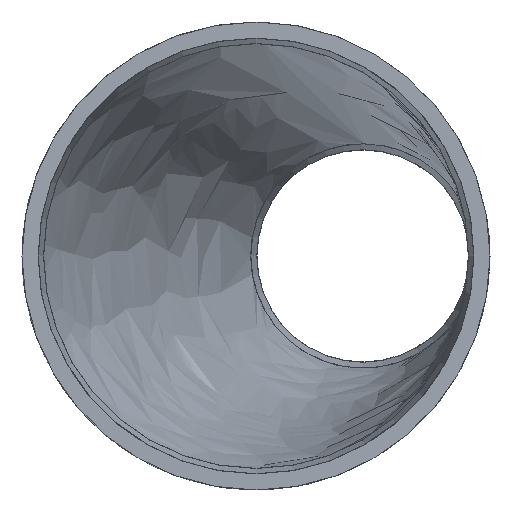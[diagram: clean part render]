
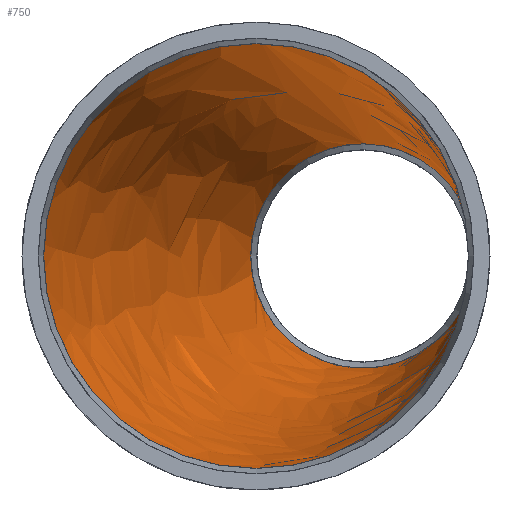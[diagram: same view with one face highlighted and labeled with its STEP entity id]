
A CAD part, left-side view. The second image highlights one B-rep face of the part: STEP entity #750.
In plain terms, the highlighted free-form (B-spline) face has degree [1, 2] with [2, 9] control points.
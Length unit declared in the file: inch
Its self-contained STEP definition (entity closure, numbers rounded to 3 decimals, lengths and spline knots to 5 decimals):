
#57=B_SPLINE_CURVE_WITH_KNOTS('',1,(#1385,#1386),.UNSPECIFIED.,.F.,.F.,
(2,2),(0.00143,4.3378),.UNSPECIFIED.);
#59=(
BOUNDED_SURFACE()
B_SPLINE_SURFACE(1,2,((#1367,#1368,#1369,#1370,#1371,#1372,#1373,#1374,
#1375),(#1376,#1377,#1378,#1379,#1380,#1381,#1382,#1383,#1384)),
 .UNSPECIFIED.,.F.,.T.,.F.)
B_SPLINE_SURFACE_WITH_KNOTS((2,2),(3,2,2,2,3),(-0.11774,4.39562),
(-3.14159,-1.5708,0.,1.5708,3.14159),
 .UNSPECIFIED.)
GEOMETRIC_REPRESENTATION_ITEM()
RATIONAL_B_SPLINE_SURFACE(((1.,0.707,1.,0.707,1.,
0.707,1.,0.707,1.),(1.,0.707,1.,0.707,
1.,0.707,1.,0.707,1.)))
REPRESENTATION_ITEM('')
SURFACE()
);
#127=FACE_OUTER_BOUND('',#159,.T.);
#159=EDGE_LOOP('',(#612,#613,#614,#615,#616,#617,#618,#619,#620,#621));
#209=CIRCLE('',#823,1.63);
#210=CIRCLE('',#824,1.63);
#211=CIRCLE('',#825,1.63);
#212=CIRCLE('',#826,1.63);
#223=CIRCLE('',#840,0.84);
#224=CIRCLE('',#841,0.84);
#225=CIRCLE('',#842,0.84);
#226=CIRCLE('',#843,0.84);
#298=VERTEX_POINT('',#1280);
#299=VERTEX_POINT('',#1281);
#300=VERTEX_POINT('',#1283);
#301=VERTEX_POINT('',#1285);
#311=VERTEX_POINT('',#1312);
#312=VERTEX_POINT('',#1313);
#313=VERTEX_POINT('',#1315);
#314=VERTEX_POINT('',#1317);
#391=EDGE_CURVE('',#298,#299,#209,.T.);
#392=EDGE_CURVE('',#299,#300,#210,.T.);
#393=EDGE_CURVE('',#300,#301,#211,.T.);
#395=EDGE_CURVE('',#301,#298,#212,.T.);
#407=EDGE_CURVE('',#311,#312,#223,.T.);
#408=EDGE_CURVE('',#312,#313,#224,.T.);
#409=EDGE_CURVE('',#313,#314,#225,.T.);
#411=EDGE_CURVE('',#314,#311,#226,.T.);
#435=EDGE_CURVE('',#299,#313,#57,.T.);
#612=ORIENTED_EDGE('',*,*,#391,.F.);
#613=ORIENTED_EDGE('',*,*,#395,.F.);
#614=ORIENTED_EDGE('',*,*,#393,.F.);
#615=ORIENTED_EDGE('',*,*,#392,.F.);
#616=ORIENTED_EDGE('',*,*,#435,.T.);
#617=ORIENTED_EDGE('',*,*,#408,.F.);
#618=ORIENTED_EDGE('',*,*,#407,.F.);
#619=ORIENTED_EDGE('',*,*,#411,.F.);
#620=ORIENTED_EDGE('',*,*,#409,.F.);
#621=ORIENTED_EDGE('',*,*,#435,.F.);
#750=ADVANCED_FACE('',(#127),#59,.T.);
#823=AXIS2_PLACEMENT_3D('',#1282,#1004,#1005);
#824=AXIS2_PLACEMENT_3D('',#1284,#1006,#1007);
#825=AXIS2_PLACEMENT_3D('',#1286,#1008,#1009);
#826=AXIS2_PLACEMENT_3D('',#1288,#1011,#1012);
#840=AXIS2_PLACEMENT_3D('',#1314,#1040,#1041);
#841=AXIS2_PLACEMENT_3D('',#1316,#1042,#1043);
#842=AXIS2_PLACEMENT_3D('',#1318,#1044,#1045);
#843=AXIS2_PLACEMENT_3D('',#1320,#1047,#1048);
#1004=DIRECTION('center_axis',(1.,0.,0.));
#1005=DIRECTION('ref_axis',(0.,1.,0.));
#1006=DIRECTION('center_axis',(1.,0.,0.));
#1007=DIRECTION('ref_axis',(0.,1.,0.));
#1008=DIRECTION('center_axis',(1.,0.,0.));
#1009=DIRECTION('ref_axis',(0.,1.,0.));
#1011=DIRECTION('center_axis',(1.,0.,0.));
#1012=DIRECTION('ref_axis',(0.,1.,0.));
#1040=DIRECTION('center_axis',(-1.,0.,0.));
#1041=DIRECTION('ref_axis',(0.,-1.,0.));
#1042=DIRECTION('center_axis',(-1.,0.,0.));
#1043=DIRECTION('ref_axis',(0.,-1.,0.));
#1044=DIRECTION('center_axis',(-1.,0.,0.));
#1045=DIRECTION('ref_axis',(0.,-1.,0.));
#1047=DIRECTION('center_axis',(-1.,0.,0.));
#1048=DIRECTION('ref_axis',(0.,-1.,0.));
#1280=CARTESIAN_POINT('',(1.26,-1.60963,-0.25692));
#1281=CARTESIAN_POINT('',(1.26,-0.02061,1.62987));
#1282=CARTESIAN_POINT('Origin',(1.26,0.,0.));
#1283=CARTESIAN_POINT('',(1.26,-1.60963,0.25692));
#1284=CARTESIAN_POINT('Origin',(1.26,0.,0.));
#1285=CARTESIAN_POINT('',(1.26,-1.63,0.));
#1286=CARTESIAN_POINT('Origin',(1.26,0.,0.));
#1288=CARTESIAN_POINT('Origin',(1.26,0.,0.));
#1312=CARTESIAN_POINT('',(8.24,-1.6295,-0.1324));
#1313=CARTESIAN_POINT('',(8.24,-1.6295,0.1324));
#1314=CARTESIAN_POINT('Origin',(8.24,-0.8,0.));
#1315=CARTESIAN_POINT('',(8.24,-0.81062,0.83993));
#1316=CARTESIAN_POINT('Origin',(8.24,-0.8,0.));
#1317=CARTESIAN_POINT('',(8.24,0.04,0.));
#1318=CARTESIAN_POINT('Origin',(8.24,-0.8,0.));
#1320=CARTESIAN_POINT('Origin',(8.24,-0.8,0.));
#1367=CARTESIAN_POINT('Ctrl Pts',(1.06818,0.0011,
1.65158));
#1368=CARTESIAN_POINT('Ctrl Pts',(0.88363,-1.62946,1.65158));
#1369=CARTESIAN_POINT('Ctrl Pts',(0.88363,-1.62946,0.));
#1370=CARTESIAN_POINT('Ctrl Pts',(0.88363,-1.62946,-1.65158));
#1371=CARTESIAN_POINT('Ctrl Pts',(1.06818,0.0011,-1.65158));
#1372=CARTESIAN_POINT('Ctrl Pts',(1.25273,1.63166,-1.65158));
#1373=CARTESIAN_POINT('Ctrl Pts',(1.25273,1.63166,0.));
#1374=CARTESIAN_POINT('Ctrl Pts',(1.25273,1.63166,1.65158));
#1375=CARTESIAN_POINT('Ctrl Pts',(1.06818,0.0011,
1.65158));
#1376=CARTESIAN_POINT('Ctrl Pts',(8.33307,-0.82116,0.8294));
#1377=CARTESIAN_POINT('Ctrl Pts',(8.24039,-1.64,0.8294));
#1378=CARTESIAN_POINT('Ctrl Pts',(8.24039,-1.64,0.));
#1379=CARTESIAN_POINT('Ctrl Pts',(8.24039,-1.64,-0.8294));
#1380=CARTESIAN_POINT('Ctrl Pts',(8.33307,-0.82116,-0.8294));
#1381=CARTESIAN_POINT('Ctrl Pts',(8.42575,-0.00231,
-0.8294));
#1382=CARTESIAN_POINT('Ctrl Pts',(8.42575,-0.00231,
0.));
#1383=CARTESIAN_POINT('Ctrl Pts',(8.42575,-0.00231,
0.8294));
#1384=CARTESIAN_POINT('Ctrl Pts',(8.33307,-0.82116,0.8294));
#1385=CARTESIAN_POINT('Ctrl Pts',(1.26,-0.02061,1.62987));
#1386=CARTESIAN_POINT('Ctrl Pts',(8.24,-0.81062,0.83993));
